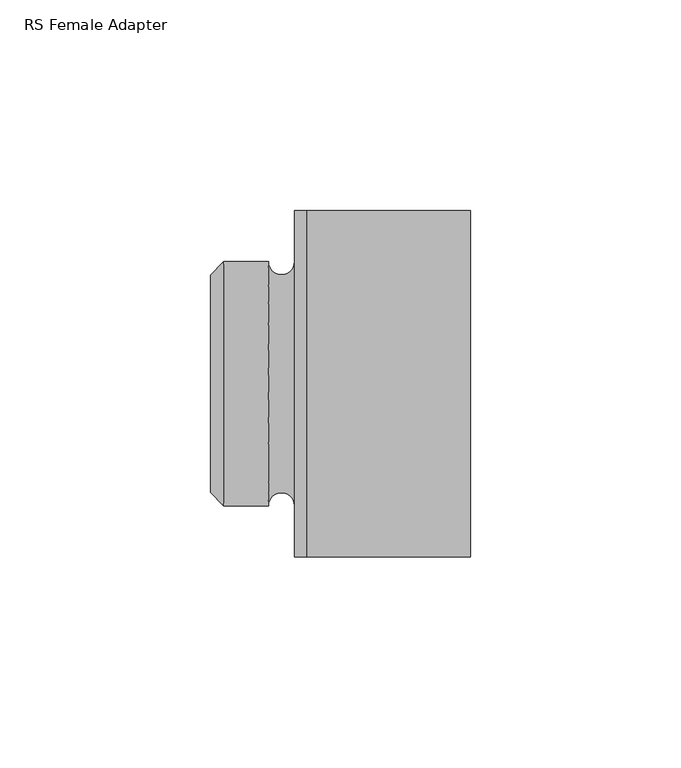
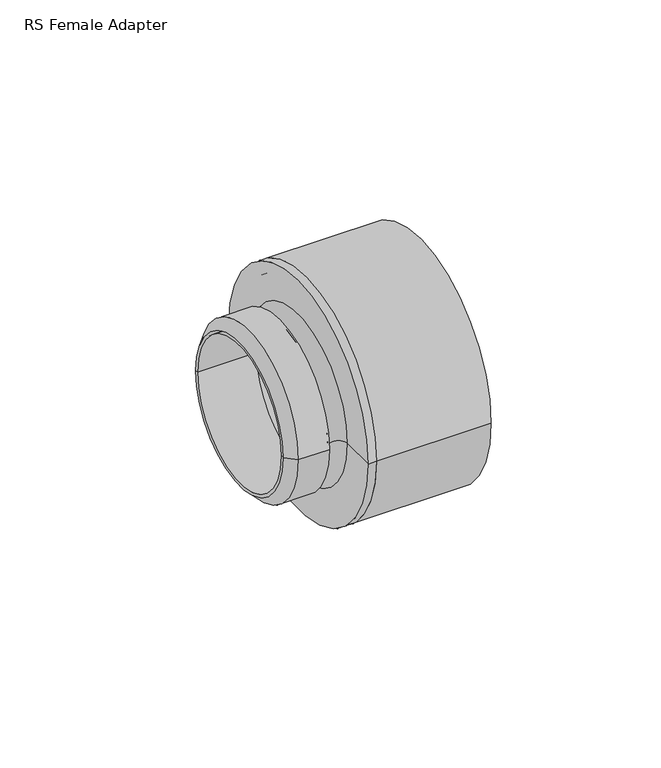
"""IFC4 building model written with IfcOpenShell, lengths in millimetres: pipe fitting geometry, RS Female Adapter : Superpipe RS2 FT Adabter 2½”."""

from ifc_helpers import new_model, si_unit, point, frame, origin, place, context, project, spatial, polyline, circle_curve, ellipse_curve, trimmed, source, transform, mapped, element, save
from ifc_brep_helpers import plane_surface, cylinder_surface, revolved_surface, advanced_brep


def rs_female_adapter_c31f11b0(model_context):
    return source(origin(), model_context, "Body", "AdvancedBrep", [
        advanced_brep(
        [(20.0, -41.2, 0.0), (20.0, 41.2, 0.0), (22.8, 41.2, 0.0), (22.8, -41.2, 0.0), (20.0, -29.0, 0.0), (20.0, 29.0, 0.0), (22.8, 37.0, 0.0), (22.8, -37.0, 0.0), (0.0, -25.8, 0.0), (0.0, 25.8, 0.0), (3.2, 29.0, 0.0), (3.2, -29.0, 0.0), (0.0, -24.8, 0.0), (0.0, 24.8, 0.0), (13.8, -29.0, 0.0), (13.8, 29.0, 0.0), (20.0, -24.8, 0.0), (20.0, 24.8, 0.0)],
        [
            (0, 1, circle_curve(frame((20.0, 0.0, 0.0), z_axis=(1.0, 0.0, 0.0), x_axis=(0.0, 1.0, 0.0)), 41.2)),
            (1, 2),
            (2, 3, circle_curve(frame((22.8, 0.0, 0.0), z_axis=(-1.0, 0.0, 0.0), x_axis=(0.0, 1.0, 0.0)), 41.2)),
            (3, 0),
            (1, 0, circle_curve(frame((20.0, 0.0, 0.0), z_axis=(1.0, 0.0, 0.0), x_axis=(0.0, 1.0, 0.0)), 41.2)),
            (3, 2, circle_curve(frame((22.8, 0.0, 0.0), z_axis=(-1.0, 0.0, 0.0), x_axis=(0.0, 1.0, 0.0)), 41.2)),
            (0, 4),
            (4, 5, circle_curve(frame((20.0, 0.0, 0.0), z_axis=(1.0, 0.0, 0.0), x_axis=(0.0, 1.0, 0.0)), 29.0)),
            (5, 1),
            (5, 4, circle_curve(frame((20.0, 0.0, 0.0), z_axis=(1.0, 0.0, 0.0), x_axis=(0.0, 1.0, 0.0)), 29.0)),
            (2, 6),
            (6, 7, circle_curve(frame((22.8, 0.0, 0.0), z_axis=(-1.0, 0.0, 0.0), x_axis=(0.0, 1.0, 0.0)), 37.0)),
            (7, 3),
            (7, 6, circle_curve(frame((22.8, 0.0, 0.0), z_axis=(-1.0, 0.0, 0.0), x_axis=(0.0, 1.0, 0.0)), 37.0)),
            (8, 9, circle_curve(frame((0.0, 0.0, 0.0), z_axis=(1.0, 0.0, 0.0), x_axis=(0.0, 1.0, 0.0)), 25.8)),
            (9, 10),
            (10, 11, circle_curve(frame((3.2, 0.0, 0.0), z_axis=(-1.0, 0.0, 0.0), x_axis=(0.0, 1.0, 0.0)), 29.0)),
            (11, 8),
            (9, 8, circle_curve(frame((0.0, 0.0, 0.0), z_axis=(1.0, 0.0, 0.0), x_axis=(0.0, 1.0, 0.0)), 25.8)),
            (11, 10, circle_curve(frame((3.2, 0.0, 0.0), z_axis=(-1.0, 0.0, 0.0), x_axis=(0.0, 1.0, 0.0)), 29.0)),
            (8, 12),
            (12, 13, circle_curve(frame((0.0, 0.0, 0.0), z_axis=(1.0, 0.0, 0.0), x_axis=(0.0, 1.0, 0.0)), 24.8)),
            (13, 9),
            (13, 12, circle_curve(frame((0.0, 0.0, 0.0), z_axis=(1.0, 0.0, 0.0), x_axis=(0.0, 1.0, 0.0)), 24.8)),
            (4, 14, circle_curve(frame((16.9, -29.0, 0.0), z_axis=(0.0, 0.0, 1.0), x_axis=(1.0, 0.0, 0.0)), 3.1)),
            (14, 15, circle_curve(frame((13.8, 0.0, 0.0), z_axis=(1.0, 0.0, 0.0), x_axis=(0.0, 1.0, 0.0)), 29.0)),
            (15, 5, circle_curve(frame((16.9, 29.0, 0.0), z_axis=(0.0, 0.0, 1.0), x_axis=(1.0, 0.0, 0.0)), 3.1)),
            (15, 14, circle_curve(frame((13.8, 0.0, 0.0), z_axis=(1.0, 0.0, 0.0), x_axis=(0.0, 1.0, 0.0)), 29.0)),
            (10, 15),
            (14, 11),
            (12, 16),
            (16, 17, circle_curve(frame((20.0, 0.0, 0.0), z_axis=(1.0, 0.0, 0.0), x_axis=(0.0, 1.0, 0.0)), 24.8)),
            (17, 13),
            (17, 16, circle_curve(frame((20.0, 0.0, 0.0), z_axis=(1.0, 0.0, 0.0), x_axis=(0.0, 1.0, 0.0)), 24.8)),
            (16, 7),
            (6, 17),
        ],
        [
            cylinder_surface(frame((1981.8, 0.0, 0.0), z_axis=(-1.0, 0.0, 0.0), x_axis=(0.0, 1.0, 0.0)), 41.2),
            plane_surface(frame((20.0, 0.0, 0.0), z_axis=(-1.0, 0.0, 0.0), x_axis=(0.0, 1.0, 0.0))),
            plane_surface(frame((22.8, 0.0, 0.0), z_axis=(1.0, 0.0, 0.0), x_axis=(0.0, 1.0, 0.0))),
            revolved_surface(polyline([(3.2, 29.0, 0.0), (0.0, 25.8, 0.0)]), (1981.8, 0.0, 0.0), (-1.0, 0.0, 0.0)),
            plane_surface(frame((0.0, 0.0, 0.0), z_axis=(-1.0, 0.0, 0.0), x_axis=(0.0, 1.0, 0.0))),
            revolved_surface(trimmed(ellipse_curve(frame((16.9, 29.0, 0.0), z_axis=(0.0, 0.0, -1.0), x_axis=(1.0, 0.0, 0.0)), 3.1, 3.1), [point((20.0, 29.0, 0.0))], [point((13.8, 29.0, 0.0))], True, "CARTESIAN"), (1981.8, 0.0, 0.0), (-1.0, 0.0, 0.0)),
            cylinder_surface(frame((1981.8, 0.0, 0.0), z_axis=(-1.0, 0.0, 0.0), x_axis=(0.0, 1.0, 0.0)), 29.0),
            revolved_surface(polyline([(0.0, 24.8, 0.0), (20.0, 24.8, 0.0)]), (2008.0, 0.0, 0.0), (-1.0, 0.0, 0.0)),
            revolved_surface(polyline([(20.0, 24.8, 0.0), (22.8, 37.0, 0.0)]), (2008.0, 0.0, 0.0), (-1.0, 0.0, 0.0)),
        ],
        [
            (0, [[1, 2, 3, 4]]),
            (0, [[-2, 5, -4, 6]]),
            (1, [[-1, 7, 8, 9]]),
            (1, [[-5, -9, 10, -7]]),
            (2, [[-3, 11, 12, 13]]),
            (2, [[-6, -13, 14, -11]]),
            (3, [[15, 16, 17, 18]]),
            (3, [[-16, 19, -18, 20]]),
            (4, [[-15, 21, 22, 23]]),
            (4, [[-19, -23, 24, -21]]),
            (5, [[-8, 25, 26, 27]]),
            (5, [[-10, -27, 28, -25]]),
            (6, [[-17, 29, -26, 30]]),
            (6, [[-20, -30, -28, -29]]),
            (7, [[31, 32, 33, -22]]),
            (7, [[-31, -24, -33, 34]]),
            (8, [[-32, 35, -12, 36]]),
            (8, [[-34, -36, -14, -35]]),
        ],
    ),
        advanced_brep(
        [(61.8, -41.2, 0.0), (61.8, 41.2, 0.0), (61.8, 37.0, 0.0), (61.8, -37.0, 0.0), (22.8, 37.0, 0.0), (22.8, -37.0, 0.0), (22.8, 41.2, 0.0), (22.8, -41.2, 0.0)],
        [
            (0, 1, circle_curve(frame((61.8, 0.0, 0.0), z_axis=(1.0, 0.0, 0.0), x_axis=(0.0, 1.0, 0.0)), 41.2)),
            (1, 2),
            (2, 3, circle_curve(frame((61.8, 0.0, 0.0), z_axis=(-1.0, 0.0, 0.0), x_axis=(0.0, 1.0, 0.0)), 37.0)),
            (3, 0),
            (2, 4),
            (4, 5, circle_curve(frame((22.8, 0.0, 0.0), z_axis=(-1.0, 0.0, 0.0), x_axis=(0.0, 1.0, 0.0)), 37.0)),
            (5, 3),
            (4, 6),
            (6, 7, circle_curve(frame((22.8, 0.0, 0.0), z_axis=(-1.0, 0.0, 0.0), x_axis=(0.0, 1.0, 0.0)), 41.2)),
            (7, 5),
            (6, 1),
            (0, 7),
            (6, 7, circle_curve(frame((22.8, 0.0, 0.0), z_axis=(1.0, 0.0, 0.0), x_axis=(0.0, 1.0, 0.0)), 41.2)),
            (0, 1, circle_curve(frame((61.8, 0.0, 0.0), z_axis=(-1.0, 0.0, 0.0), x_axis=(0.0, 1.0, 0.0)), 41.2)),
            (4, 5, circle_curve(frame((22.8, 0.0, 0.0), z_axis=(1.0, 0.0, 0.0), x_axis=(0.0, 1.0, 0.0)), 37.0)),
            (2, 3, circle_curve(frame((61.8, 0.0, 0.0), z_axis=(1.0, 0.0, 0.0), x_axis=(0.0, 1.0, 0.0)), 37.0)),
        ],
        [
            plane_surface(frame((61.8, 0.0, 0.0), z_axis=(1.0, 0.0, 0.0), x_axis=(0.0, 1.0, 0.0))),
            revolved_surface(polyline([(22.799999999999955, 37.0, 0.0), (61.799999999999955, 37.0, 0.0)]), (2017.0, 0.0, 0.0), (-1.0, 0.0, 0.0)),
            plane_surface(frame((22.8, 0.0, 0.0), z_axis=(-1.0, 0.0, 0.0), x_axis=(0.0, 1.0, 0.0))),
            cylinder_surface(frame((2017.0, 0.0, 0.0), z_axis=(-1.0, 0.0, 0.0), x_axis=(0.0, 1.0, 0.0)), 41.2),
        ],
        [
            (0, [[1, 2, 3, 4]]),
            (1, [[-3, 5, 6, 7]]),
            (2, [[-6, 8, 9, 10]]),
            (3, [[-9, 11, -1, 12]]),
            (3, [[13, -12, 14, -11]]),
            (2, [[15, -10, -13, -8]]),
            (1, [[16, -7, -15, -5]]),
            (0, [[-14, -4, -16, -2]]),
        ],
    ),
    ])


if __name__ == "__main__":
    model = new_model("IFC4")
    model_context = context("Model", 3, world=origin())
    ifc_project = project(units=[si_unit("LENGTHUNIT", "METRE", prefix="MILLI")], contexts=[model_context])
    site = spatial("IfcSite", under=ifc_project)
    building = spatial("IfcBuilding", under=site)
    placement = place(None, origin())
    rs_female_adapter_shape = rs_female_adapter_c31f11b0(model_context)
    element("IfcPipeFitting", 1, ObjectType="RS Female Adapter : Superpipe RS2 FT Adabter 2½”", at=placement, inside=building, context=model_context, shape_type="MappedRepresentation", body=[
        mapped(rs_female_adapter_shape, transform((0.0, 0.0, 0.0), x_axis=(1.0, 0.0, 0.0), y_axis=(0.0, 1.0, 0.0), z_axis=(0.0, 0.0, 1.0))),
    ])
    save(model, "model.ifc")
